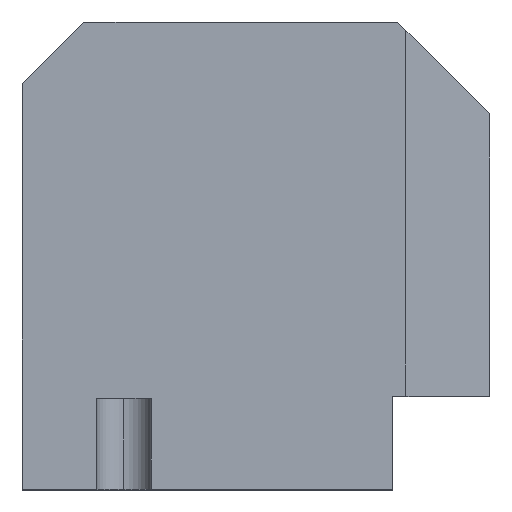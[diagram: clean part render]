
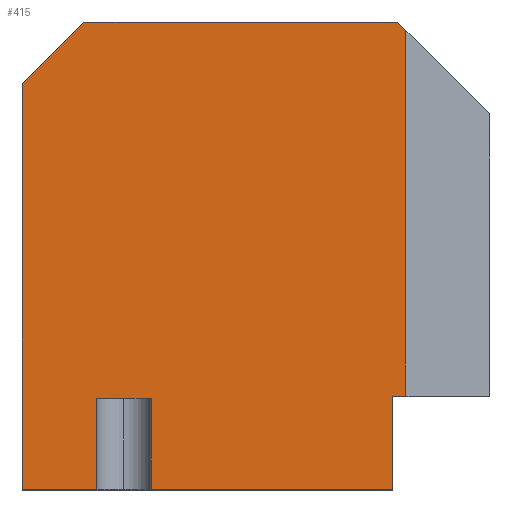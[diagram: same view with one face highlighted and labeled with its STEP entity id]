
A CAD part, top view. The second image highlights one B-rep face of the part: STEP entity #415.
In plain terms, the highlighted planar face has unit normal (0, 0, 1).
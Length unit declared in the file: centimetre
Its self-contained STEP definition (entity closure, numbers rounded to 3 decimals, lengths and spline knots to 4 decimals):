
#16 = CARTESIAN_POINT ( 'NONE',  ( 0., 0., 1000. ) ) ;
#34 = DIRECTION ( 'NONE',  ( 1., 0., 0. ) ) ;
#42 = VERTEX_POINT ( 'NONE', #490 ) ;
#44 = VERTEX_POINT ( 'NONE', #588 ) ;
#60 = DIRECTION ( 'NONE',  ( -0.707, -0.707, 0. ) ) ;
#61 = CARTESIAN_POINT ( 'NONE',  ( 0., 1000., 1000. ) ) ;
#65 = VERTEX_POINT ( 'NONE', #499 ) ;
#69 = ORIENTED_EDGE ( 'NONE', *, *, #112, .T. ) ;
#83 = ORIENTED_EDGE ( 'NONE', *, *, #124, .F. ) ;
#87 = EDGE_CURVE ( 'NONE', #216, #272, #692, .T. ) ;
#90 = ORIENTED_EDGE ( 'NONE', *, *, #894, .F. ) ;
#112 = EDGE_CURVE ( 'NONE', #891, #44, #888, .T. ) ;
#124 = EDGE_CURVE ( 'NONE', #924, #44, #411, .T. ) ;
#139 = EDGE_CURVE ( 'NONE', #365, #65, #391, .T. ) ;
#140 = LINE ( 'NONE', #245, #387 ) ;
#150 = CARTESIAN_POINT ( 'NONE',  ( 820.9754, 982.5366, 1000. ) ) ;
#176 = VECTOR ( 'NONE', #535, 100. ) ;
#209 = DIRECTION ( 'NONE',  ( -0.707, 0.707, 0. ) ) ;
#216 = VERTEX_POINT ( 'NONE', #150 ) ;
#228 = CARTESIAN_POINT ( 'NONE',  ( 275.8161, 194.3824, 1000. ) ) ;
#236 = ORIENTED_EDGE ( 'NONE', *, *, #666, .T. ) ;
#237 = VECTOR ( 'NONE', #34, 100. ) ;
#239 = CARTESIAN_POINT ( 'NONE',  ( 131.7055, 1000., 1000. ) ) ;
#245 = CARTESIAN_POINT ( 'NONE',  ( 820.9754, 803.5119, 1000. ) ) ;
#246 = CARTESIAN_POINT ( 'NONE',  ( 0., 0., 1000. ) ) ;
#257 = LINE ( 'NONE', #61, #890 ) ;
#272 = VERTEX_POINT ( 'NONE', #823 ) ;
#278 = VERTEX_POINT ( 'NONE', #734 ) ;
#297 = FACE_OUTER_BOUND ( 'NONE', #345, .T. ) ;
#302 = CARTESIAN_POINT ( 'NONE',  ( 275.8161, 0., 1000. ) ) ;
#321 = CARTESIAN_POINT ( 'NONE',  ( 792.0722, 0., 1000. ) ) ;
#344 = LINE ( 'NONE', #897, #1234 ) ;
#345 = EDGE_LOOP ( 'NONE', ( #1229, #1023, #236, #1169, #640, #856, #1094, #69, #83, #90, #554, #955 ) ) ;
#365 = VERTEX_POINT ( 'NONE', #1001 ) ;
#376 = EDGE_CURVE ( 'NONE', #630, #278, #626, .T. ) ;
#385 = DIRECTION ( 'NONE',  ( 0., -1., 0. ) ) ;
#386 = DIRECTION ( 'NONE',  ( 0., 0., 1. ) ) ;
#387 = VECTOR ( 'NONE', #532, 100. ) ;
#391 = LINE ( 'NONE', #1157, #1036 ) ;
#394 = VERTEX_POINT ( 'NONE', #302 ) ;
#411 = LINE ( 'NONE', #1178, #756 ) ;
#415 = ADVANCED_FACE ( 'NONE', ( #297 ), #681, .T. ) ;
#431 = VECTOR ( 'NONE', #1098, 100. ) ;
#439 = DIRECTION ( 'NONE',  ( 0., -1., 0. ) ) ;
#490 = CARTESIAN_POINT ( 'NONE',  ( 275.8161, 194.3824, 1000. ) ) ;
#499 = CARTESIAN_POINT ( 'NONE',  ( 820.9754, 199.4318, 1000. ) ) ;
#531 = CARTESIAN_POINT ( 'NONE',  ( -434.1473, 434.1473, 1000. ) ) ;
#532 = DIRECTION ( 'NONE',  ( 0., 1., 0. ) ) ;
#535 = DIRECTION ( 'NONE',  ( 1., 0., 0. ) ) ;
#554 = ORIENTED_EDGE ( 'NONE', *, *, #695, .T. ) ;
#588 = CARTESIAN_POINT ( 'NONE',  ( 158.3757, 0., 1000. ) ) ;
#601 = CARTESIAN_POINT ( 'NONE',  ( 0., 0., 1000. ) ) ;
#611 = VERTEX_POINT ( 'NONE', #321 ) ;
#626 = LINE ( 'NONE', #531, #730 ) ;
#630 = VERTEX_POINT ( 'NONE', #239 ) ;
#640 = ORIENTED_EDGE ( 'NONE', *, *, #958, .T. ) ;
#653 = LINE ( 'NONE', #945, #793 ) ;
#666 = EDGE_CURVE ( 'NONE', #65, #216, #140, .T. ) ;
#681 = PLANE ( 'NONE',  #833 ) ;
#685 = CARTESIAN_POINT ( 'NONE',  ( 901.756, 901.756, 1000. ) ) ;
#692 = LINE ( 'NONE', #685, #1198 ) ;
#695 = EDGE_CURVE ( 'NONE', #42, #394, #1078, .T. ) ;
#726 = DIRECTION ( 'NONE',  ( -1., 0., 0. ) ) ;
#730 = VECTOR ( 'NONE', #60, 100. ) ;
#734 = CARTESIAN_POINT ( 'NONE',  ( 0., 868.2945, 1000. ) ) ;
#756 = VECTOR ( 'NONE', #385, 100. ) ;
#793 = VECTOR ( 'NONE', #1046, 100. ) ;
#796 = LINE ( 'NONE', #1176, #431 ) ;
#802 = EDGE_CURVE ( 'NONE', #278, #891, #257, .T. ) ;
#804 = LINE ( 'NONE', #246, #176 ) ;
#823 = CARTESIAN_POINT ( 'NONE',  ( 803.5119, 1000., 1000. ) ) ;
#833 = AXIS2_PLACEMENT_3D ( 'NONE', #16, #386, #1140 ) ;
#856 = ORIENTED_EDGE ( 'NONE', *, *, #376, .T. ) ;
#888 = LINE ( 'NONE', #601, #237 ) ;
#890 = VECTOR ( 'NONE', #439, 100. ) ;
#891 = VERTEX_POINT ( 'NONE', #918 ) ;
#894 = EDGE_CURVE ( 'NONE', #42, #924, #796, .T. ) ;
#897 = CARTESIAN_POINT ( 'NONE',  ( 0., 1000., 1000. ) ) ;
#918 = CARTESIAN_POINT ( 'NONE',  ( 0., 0., 1000. ) ) ;
#924 = VERTEX_POINT ( 'NONE', #994 ) ;
#938 = EDGE_CURVE ( 'NONE', #394, #611, #804, .T. ) ;
#945 = CARTESIAN_POINT ( 'NONE',  ( 792.0722, 0., 1000. ) ) ;
#955 = ORIENTED_EDGE ( 'NONE', *, *, #938, .T. ) ;
#958 = EDGE_CURVE ( 'NONE', #272, #630, #344, .T. ) ;
#961 = DIRECTION ( 'NONE',  ( 1., 0., 0. ) ) ;
#994 = CARTESIAN_POINT ( 'NONE',  ( 158.3757, 194.3824, 1000. ) ) ;
#1001 = CARTESIAN_POINT ( 'NONE',  ( 792.0722, 199.4318, 1000. ) ) ;
#1007 = DIRECTION ( 'NONE',  ( 0., -1., 0. ) ) ;
#1023 = ORIENTED_EDGE ( 'NONE', *, *, #139, .T. ) ;
#1036 = VECTOR ( 'NONE', #961, 100. ) ;
#1046 = DIRECTION ( 'NONE',  ( 0., 1., 0. ) ) ;
#1067 = VECTOR ( 'NONE', #1007, 100. ) ;
#1078 = LINE ( 'NONE', #228, #1067 ) ;
#1094 = ORIENTED_EDGE ( 'NONE', *, *, #802, .T. ) ;
#1098 = DIRECTION ( 'NONE',  ( -1., 0., 0. ) ) ;
#1140 = DIRECTION ( 'NONE',  ( 1., 0., 0. ) ) ;
#1157 = CARTESIAN_POINT ( 'NONE',  ( 792.0722, 199.4318, 1000. ) ) ;
#1169 = ORIENTED_EDGE ( 'NONE', *, *, #87, .T. ) ;
#1174 = EDGE_CURVE ( 'NONE', #611, #365, #653, .T. ) ;
#1176 = CARTESIAN_POINT ( 'NONE',  ( 0., 194.3824, 1000. ) ) ;
#1178 = CARTESIAN_POINT ( 'NONE',  ( 158.3757, 194.3824, 1000. ) ) ;
#1198 = VECTOR ( 'NONE', #209, 100. ) ;
#1229 = ORIENTED_EDGE ( 'NONE', *, *, #1174, .T. ) ;
#1234 = VECTOR ( 'NONE', #726, 100. ) ;
